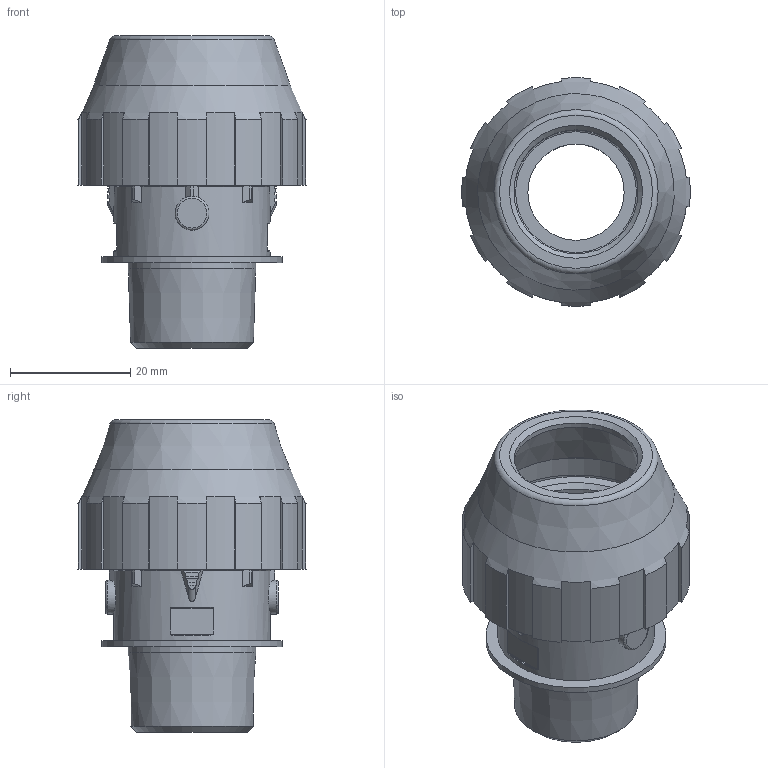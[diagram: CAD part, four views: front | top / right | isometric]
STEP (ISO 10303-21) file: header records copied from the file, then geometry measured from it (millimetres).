
FILE_DESCRIPTION( ( 'STEP AP214' ), '1' );
FILE_NAME( ' ', ' ', ( ' ' ), ( ' ' ), 'PSStep 11.0', 'VISI 17.0', ' ' );
FILE_SCHEMA( ( 'AUTOMOTIVE_DESIGN { 1 0 10303 214 1 1 1 1 }' ) );
Length unit declared in the file: millimetre
Products named in the file (10): 1; 2; 3; 4; 5; 6; 7; 8; 9; 10
Bounding box: 37.96 x 37.96 x 51.95 mm (x, y, z)
Volume: 16054.6 mm3; surface area: 20667.8 mm2
Topology: 10 solids, 10 shells, 214 faces, 535 edges, 350 vertices
Faces by surface type: plane 104, cylinder 79, cone 12, torus 11, bspline 8
Full cylindrical faces by diameter (mm): 5.633 x2, 16 x1, 20.6 x2, 21.186 x1, 24.9 x1, 26 x1, 29.88 x1, 30 x1, 31 x1, 33 x2
Entity records: 9645 total; most frequent: CARTESIAN_POINT 2784, DIRECTION 1104, ORIENTED_EDGE 972, EDGE_CURVE 486, AXIS2_PLACEMENT_3D 442, VERTEX_POINT 334, EDGE_LOOP 264, FACE_OUTER_BOUND 234
